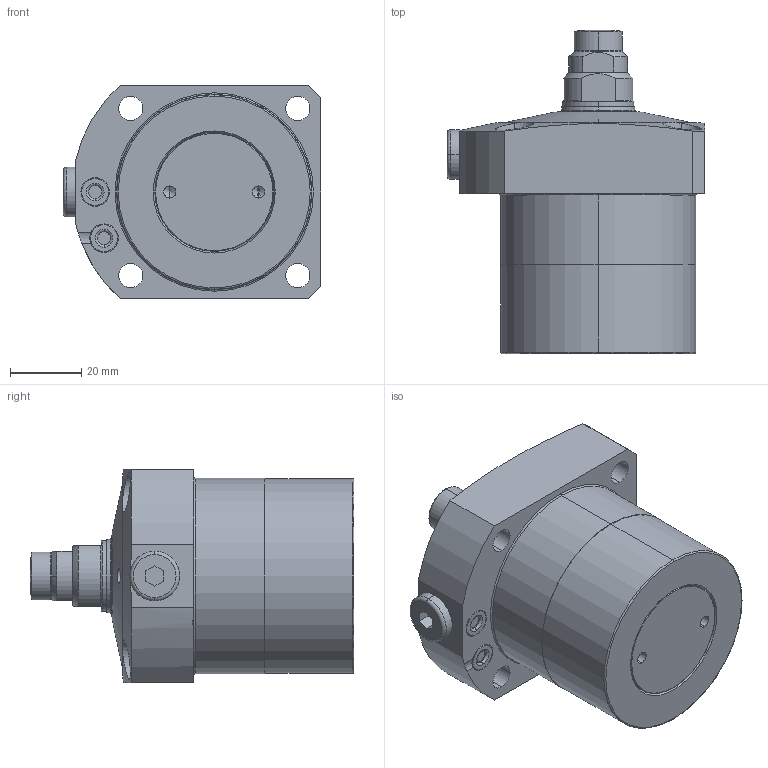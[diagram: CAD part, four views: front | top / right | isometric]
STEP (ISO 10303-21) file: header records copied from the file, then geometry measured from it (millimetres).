
FILE_DESCRIPTION(/* description */ (''),/* implementation_level */ '2;1');
FILE_NAME(/* name */ 'KFSC55-M.stp',/* time_stamp */ '2026-02-04T16:30:35+08:00',/* author */ (''),/* organization */ (''),/* preprocessor_version */ 'ST-DEVELOPER v16.7',/* originating_system */ 'SIEMENS PLM Software NX 12.0',/* authorisation */ '');
FILE_SCHEMA (('AUTOMOTIVE_DESIGN { 1 0 10303 214 3 1 1 1 }'));
Length unit declared in the file: millimetre
Products named in the file (10): XLC-M12SP_contactbolt7030; XLC-M12SP_pad3985; XLC-M12SP_pin7006; XLC-M12_o-ring6949; KFSC55-M-04; KFSC55-M-01; P5-1; KFSC55-M-02; KFSC55-M-03; LC0553-CxM_step
Assembly tree (10 placements, depth 3):
  LC0553-CxM_step
    KFSC55-M-02
    P5-1  x2
    KFSC55-M-03
      XLC-M12_o-ring6949
      XLC-M12SP_pin7006
      XLC-M12SP_pad3985
      XLC-M12SP_contactbolt7030
    KFSC55-M-01
    KFSC55-M-04
Bounding box: 72.5 x 91 x 60 mm (x, y, z)
Volume: 187136.3 mm3; surface area: 29032.2 mm2
Topology: 9 solids, 9 shells, 280 faces, 636 edges, 385 vertices
Faces by surface type: cylinder 97, torus 63, plane 59, cone 55, sphere 6
Entity records: 8418 total; most frequent: CARTESIAN_POINT 1903, DIRECTION 1445, ORIENTED_EDGE 1208, AXIS2_PLACEMENT_3D 626, EDGE_CURVE 604, VERTEX_POINT 371, CIRCLE 347, EDGE_LOOP 307
